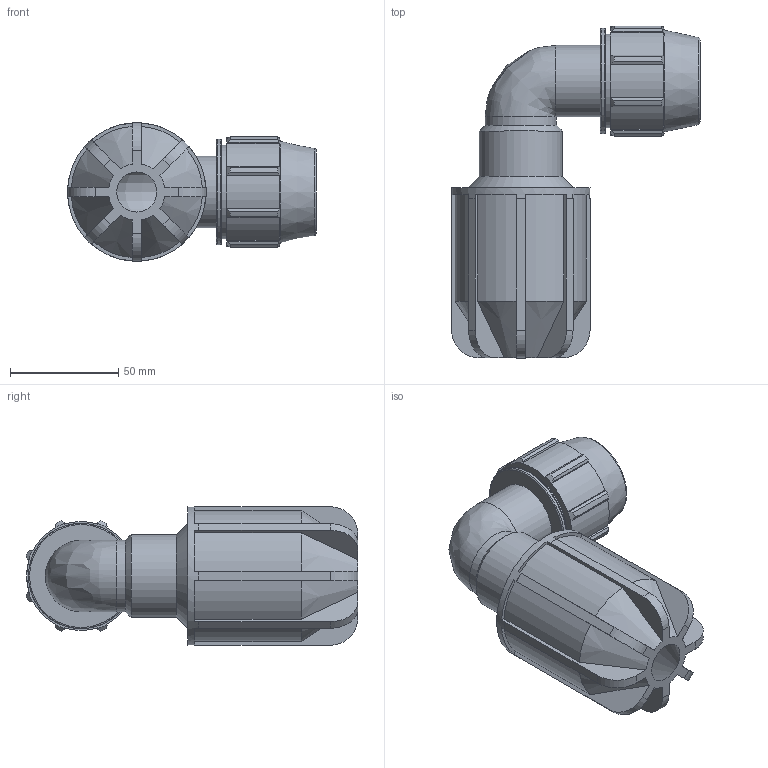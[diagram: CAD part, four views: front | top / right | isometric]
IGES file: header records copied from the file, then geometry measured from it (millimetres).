
Global section: file name: 070570M07022.ipt; native system: Autodesk Inventor 2019; preprocessor: unknown; author: KIM; date: 20210826.124555; units: inch
Bounding box: 115.06 x 153.47 x 64.01 mm (x, y, z)
Volume: 233429.7 mm3; surface area: 61733.4 mm2
Topology: 1 solids, 1 shells, 160 faces, 453 edges, 299 vertices
Faces by surface type: plane 88, cylinder 38, cone 20, revolution 13, bspline 1
Full cylindrical faces by diameter (mm): 32.992 x2, 38.255 x1, 43.282 x1, 48.692 x1, 64.008 x1
